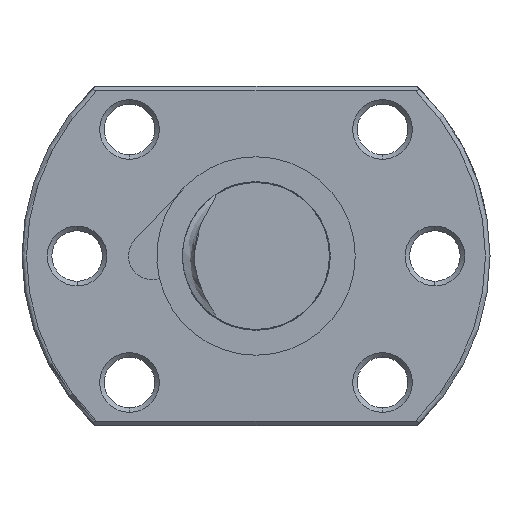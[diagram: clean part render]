
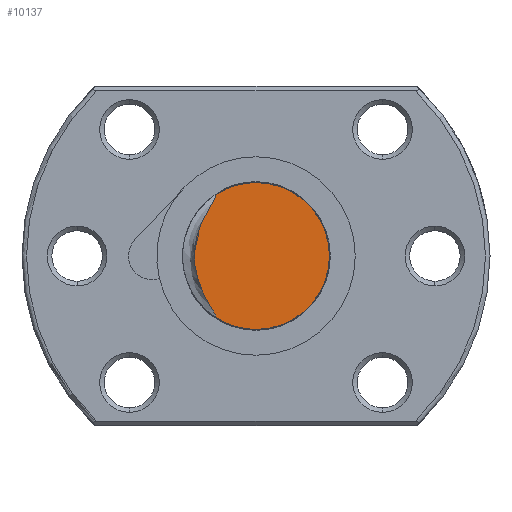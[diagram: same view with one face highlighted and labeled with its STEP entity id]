
A CAD part, left-side view. The second image highlights one B-rep face of the part: STEP entity #10137.
In plain terms, the highlighted planar face has unit normal (-1, 0, 0).
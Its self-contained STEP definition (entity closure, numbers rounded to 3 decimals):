
#10137 = ADVANCED_FACE ( 'NONE', ( #27275 ), #27270, .F. ) ;
#10138 = EDGE_LOOP ( 'NONE', ( #10139, #10140, #10192, #10193 ) ) ;
#10139 = ORIENTED_EDGE ( 'NONE', *, *, #26349, .F. ) ;
#10140 = ORIENTED_EDGE ( 'NONE', *, *, #10141, .T. ) ;
#10141 = EDGE_CURVE ( 'NONE', #26363, #26435, #27345, .T. ) ;
#10192 = ORIENTED_EDGE ( 'NONE', *, *, #26446, .F. ) ;
#10193 = ORIENTED_EDGE ( 'NONE', *, *, #26429, .F. ) ;
#23307 = CARTESIAN_POINT ( 'NONE',  ( -100., 0., 8. ) ) ;
#23308 = DIRECTION ( 'NONE',  ( 0., 1., 0. ) ) ;
#23309 = DIRECTION ( 'NONE',  ( 1., 0., 0. ) ) ;
#23310 = AXIS2_PLACEMENT_3D ( 'NONE', #23317, #23309, #23308 ) ;
#23311 = CIRCLE ( 'NONE', #23310, 8. ) ;
#23317 = CARTESIAN_POINT ( 'NONE',  ( -100., 0., 0. ) ) ;
#23384 = CARTESIAN_POINT ( 'NONE',  ( -100., 4.336, 6.723 ) ) ;
#23840 = DIRECTION ( 'NONE',  ( 0., 1., 0. ) ) ;
#23841 = DIRECTION ( 'NONE',  ( 1., 0., 0. ) ) ;
#23842 = AXIS2_PLACEMENT_3D ( 'NONE', #23849, #23841, #23840 ) ;
#23843 = CIRCLE ( 'NONE', #23842, 8. ) ;
#23849 = CARTESIAN_POINT ( 'NONE',  ( -100., 0., 0. ) ) ;
#23943 = CARTESIAN_POINT ( 'NONE',  ( -100., 4.336, -6.723 ) ) ;
#23950 = AXIS2_PLACEMENT_3D ( 'NONE', #24030, #24029, #24028 ) ;
#23951 = CIRCLE ( 'NONE', #23950, 8. ) ;
#23953 = CARTESIAN_POINT ( 'NONE',  ( -100., 0., -8. ) ) ;
#24028 = DIRECTION ( 'NONE',  ( 0., 1., 0. ) ) ;
#24029 = DIRECTION ( 'NONE',  ( 1., 0., 0. ) ) ;
#24030 = CARTESIAN_POINT ( 'NONE',  ( -100., 0., 0. ) ) ;
#26349 = EDGE_CURVE ( 'NONE', #26363, #26350, #23311, .T. ) ;
#26350 = VERTEX_POINT ( 'NONE', #23307 ) ;
#26363 = VERTEX_POINT ( 'NONE', #23384 ) ;
#26429 = EDGE_CURVE ( 'NONE', #26350, #26444, #23843, .T. ) ;
#26435 = VERTEX_POINT ( 'NONE', #23943 ) ;
#26444 = VERTEX_POINT ( 'NONE', #23953 ) ;
#26446 = EDGE_CURVE ( 'NONE', #26444, #26435, #23951, .T. ) ;
#27266 = DIRECTION ( 'NONE',  ( 0., 0., -1. ) ) ;
#27267 = DIRECTION ( 'NONE',  ( 1., 0., 0. ) ) ;
#27268 = CARTESIAN_POINT ( 'NONE',  ( -100., 0., 0. ) ) ;
#27269 = AXIS2_PLACEMENT_3D ( 'NONE', #27268, #27267, #27266 ) ;
#27270 = PLANE ( 'NONE',  #27269 ) ;
#27275 = FACE_OUTER_BOUND ( 'NONE', #10138, .T. ) ;
#27312 = CARTESIAN_POINT ( 'NONE',  ( -100., 4.336, -6.723 ) ) ;
#27313 = CARTESIAN_POINT ( 'NONE',  ( -100., 4.351, -6.648 ) ) ;
#27314 = CARTESIAN_POINT ( 'NONE',  ( -100., 4.375, -6.575 ) ) ;
#27315 = CARTESIAN_POINT ( 'NONE',  ( -100., 4.431, -6.433 ) ) ;
#27316 = CARTESIAN_POINT ( 'NONE',  ( -100., 4.462, -6.363 ) ) ;
#27317 = CARTESIAN_POINT ( 'NONE',  ( -100., 4.563, -6.159 ) ) ;
#27318 = CARTESIAN_POINT ( 'NONE',  ( -100., 4.638, -6.027 ) ) ;
#27319 = CARTESIAN_POINT ( 'NONE',  ( -100., 4.866, -5.634 ) ) ;
#27320 = CARTESIAN_POINT ( 'NONE',  ( -100., 5.025, -5.376 ) ) ;
#27321 = CARTESIAN_POINT ( 'NONE',  ( -100., 5.484, -4.59 ) ) ;
#27322 = CARTESIAN_POINT ( 'NONE',  ( -100., 5.766, -4.053 ) ) ;
#27323 = CARTESIAN_POINT ( 'NONE',  ( -100., 6.113, -3.218 ) ) ;
#27324 = CARTESIAN_POINT ( 'NONE',  ( -100., 6.216, -2.934 ) ) ;
#27325 = CARTESIAN_POINT ( 'NONE',  ( -100., 6.395, -2.356 ) ) ;
#27326 = CARTESIAN_POINT ( 'NONE',  ( -100., 6.471, -2.062 ) ) ;
#27327 = CARTESIAN_POINT ( 'NONE',  ( -100., 6.652, -1.178 ) ) ;
#27328 = CARTESIAN_POINT ( 'NONE',  ( -100., 6.714, -0.585 ) ) ;
#27329 = CARTESIAN_POINT ( 'NONE',  ( -100., 6.712, 0.311 ) ) ;
#27330 = CARTESIAN_POINT ( 'NONE',  ( -100., 6.696, 0.612 ) ) ;
#27331 = CARTESIAN_POINT ( 'NONE',  ( -100., 6.632, 1.214 ) ) ;
#27332 = CARTESIAN_POINT ( 'NONE',  ( -100., 6.585, 1.514 ) ) ;
#27333 = CARTESIAN_POINT ( 'NONE',  ( -100., 6.4, 2.394 ) ) ;
#27334 = CARTESIAN_POINT ( 'NONE',  ( -100., 6.22, 2.962 ) ) ;
#27335 = CARTESIAN_POINT ( 'NONE',  ( -100., 5.76, 4.064 ) ) ;
#27336 = CARTESIAN_POINT ( 'NONE',  ( -100., 5.479, 4.6 ) ) ;
#27337 = CARTESIAN_POINT ( 'NONE',  ( -100., 5.021, 5.383 ) ) ;
#27338 = CARTESIAN_POINT ( 'NONE',  ( -100., 4.863, 5.64 ) ) ;
#27339 = CARTESIAN_POINT ( 'NONE',  ( -100., 4.635, 6.032 ) ) ;
#27340 = CARTESIAN_POINT ( 'NONE',  ( -100., 4.561, 6.164 ) ) ;
#27341 = CARTESIAN_POINT ( 'NONE',  ( -100., 4.427, 6.436 ) ) ;
#27342 = CARTESIAN_POINT ( 'NONE',  ( -100., 4.365, 6.574 ) ) ;
#27343 = CARTESIAN_POINT ( 'NONE',  ( -100., 4.336, 6.723 ) ) ;
#27345 = B_SPLINE_CURVE_WITH_KNOTS ( 'NONE', 3,
 ( #27343, #27342, #27341, #27340, #27339, #27338, #27337, #27336, #27335, #27334, #27333, #27332, #27331, #27330, #27329, #27328, #27327, #27326, #27325, #27324, #27323, #27322, #27321, #27320, #27319, #27318, #27317, #27316, #27315, #27314, #27313, #27312 ),
 .UNSPECIFIED., .F., .F.,
 ( 4, 2, 2, 2, 2, 2, 2, 2, 2, 2, 2, 2, 2, 2, 2, 4 ),
 ( 0.005, 0.005, 0.006, 0.007, 0.008, 0.01, 0.011, 0.012, 0.014, 0.014, 0.015, 0.017, 0.018, 0.018, 0.019, 0.019 ),
 .UNSPECIFIED. ) ;
